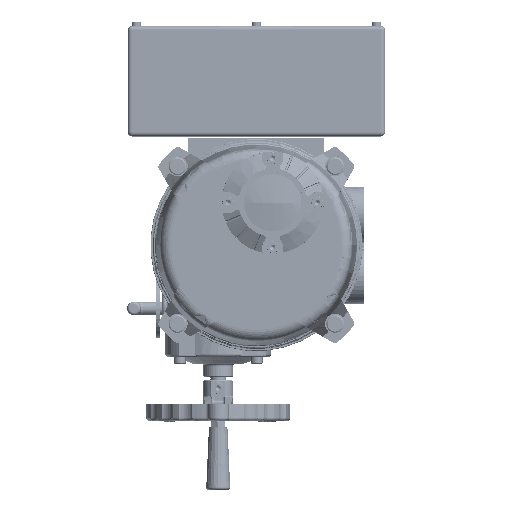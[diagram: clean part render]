
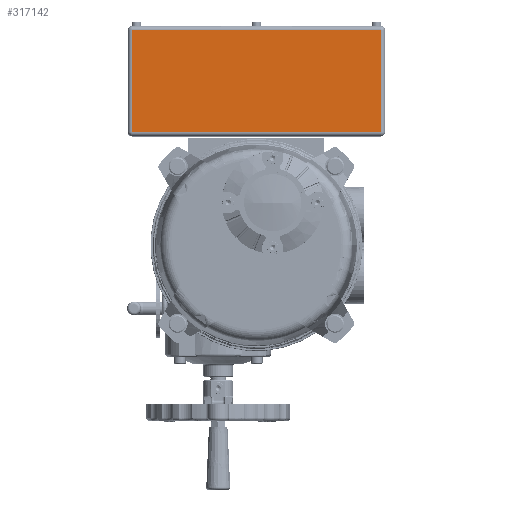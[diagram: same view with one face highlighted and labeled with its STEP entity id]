
A CAD part, top view. The second image highlights one B-rep face of the part: STEP entity #317142.
In plain terms, the highlighted planar face has unit normal (0, 0, 1).
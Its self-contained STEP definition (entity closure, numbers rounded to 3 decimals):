
#315689 = CYLINDRICAL_SURFACE('',#315690,3.);
#315690 = AXIS2_PLACEMENT_3D('',#315691,#315692,#315693);
#315691 = CARTESIAN_POINT('',(66.957,-40.676,116.5));
#315692 = DIRECTION('',(-1.,0.,0.));
#315693 = DIRECTION('',(-0.,-1.,0.));
#316919 = CYLINDRICAL_SURFACE('',#316920,3.);
#316920 = AXIS2_PLACEMENT_3D('',#316921,#316922,#316923);
#316921 = CARTESIAN_POINT('',(66.957,-115.676,116.5));
#316922 = DIRECTION('',(-1.,0.,0.));
#316923 = DIRECTION('',(-0.,-1.,0.));
#317142 = ADVANCED_FACE('',(#317143),#317157,.F.);
#317143 = FACE_BOUND('',#317144,.T.);
#317144 = EDGE_LOOP('',(#317145,#317175,#317203,#317226));
#317145 = ORIENTED_EDGE('',*,*,#317146,.T.);
#317146 = EDGE_CURVE('',#317147,#317149,#317151,.T.);
#317147 = VERTEX_POINT('',#317148);
#317148 = CARTESIAN_POINT('',(63.957,-40.676,119.5));
#317149 = VERTEX_POINT('',#317150);
#317150 = CARTESIAN_POINT('',(-119.043,-40.676,119.5));
#317151 = SURFACE_CURVE('',#317152,(#317156,#317168),.PCURVE_S1.);
#317152 = LINE('',#317153,#317154);
#317153 = CARTESIAN_POINT('',(66.957,-40.676,119.5));
#317154 = VECTOR('',#317155,1.);
#317155 = DIRECTION('',(-1.,0.,0.));
#317156 = PCURVE('',#317157,#317162);
#317157 = PLANE('',#317158);
#317158 = AXIS2_PLACEMENT_3D('',#317159,#317160,#317161);
#317159 = CARTESIAN_POINT('',(66.957,-118.676,119.5));
#317160 = DIRECTION('',(0.,0.,-1.));
#317161 = DIRECTION('',(0.,1.,0.));
#317162 = DEFINITIONAL_REPRESENTATION('',(#317163),#317167);
#317163 = LINE('',#317164,#317165);
#317164 = CARTESIAN_POINT('',(78.,0.));
#317165 = VECTOR('',#317166,1.);
#317166 = DIRECTION('',(0.,-1.));
#317167 = ( GEOMETRIC_REPRESENTATION_CONTEXT(2) 
PARAMETRIC_REPRESENTATION_CONTEXT() REPRESENTATION_CONTEXT('2D SPACE',''
  ) );
#317168 = PCURVE('',#315689,#317169);
#317169 = DEFINITIONAL_REPRESENTATION('',(#317170),#317174);
#317170 = LINE('',#317171,#317172);
#317171 = CARTESIAN_POINT('',(1.571,0.));
#317172 = VECTOR('',#317173,1.);
#317173 = DIRECTION('',(0.,1.));
#317174 = ( GEOMETRIC_REPRESENTATION_CONTEXT(2) 
PARAMETRIC_REPRESENTATION_CONTEXT() REPRESENTATION_CONTEXT('2D SPACE',''
  ) );
#317175 = ORIENTED_EDGE('',*,*,#317176,.T.);
#317176 = EDGE_CURVE('',#317149,#317177,#317179,.T.);
#317177 = VERTEX_POINT('',#317178);
#317178 = CARTESIAN_POINT('',(-119.043,-115.676,119.5));
#317179 = SURFACE_CURVE('',#317180,(#317184,#317191),.PCURVE_S1.);
#317180 = LINE('',#317181,#317182);
#317181 = CARTESIAN_POINT('',(-119.043,-118.676,119.5));
#317182 = VECTOR('',#317183,1.);
#317183 = DIRECTION('',(0.,-1.,0.));
#317184 = PCURVE('',#317157,#317185);
#317185 = DEFINITIONAL_REPRESENTATION('',(#317186),#317190);
#317186 = LINE('',#317187,#317188);
#317187 = CARTESIAN_POINT('',(0.,-186.));
#317188 = VECTOR('',#317189,1.);
#317189 = DIRECTION('',(-1.,0.));
#317190 = ( GEOMETRIC_REPRESENTATION_CONTEXT(2) 
PARAMETRIC_REPRESENTATION_CONTEXT() REPRESENTATION_CONTEXT('2D SPACE',''
  ) );
#317191 = PCURVE('',#317192,#317197);
#317192 = CYLINDRICAL_SURFACE('',#317193,3.);
#317193 = AXIS2_PLACEMENT_3D('',#317194,#317195,#317196);
#317194 = CARTESIAN_POINT('',(-119.043,-118.676,116.5));
#317195 = DIRECTION('',(0.,-1.,0.));
#317196 = DIRECTION('',(1.,0.,0.));
#317197 = DEFINITIONAL_REPRESENTATION('',(#317198),#317202);
#317198 = LINE('',#317199,#317200);
#317199 = CARTESIAN_POINT('',(1.571,0.));
#317200 = VECTOR('',#317201,1.);
#317201 = DIRECTION('',(0.,1.));
#317202 = ( GEOMETRIC_REPRESENTATION_CONTEXT(2) 
PARAMETRIC_REPRESENTATION_CONTEXT() REPRESENTATION_CONTEXT('2D SPACE',''
  ) );
#317203 = ORIENTED_EDGE('',*,*,#317204,.T.);
#317204 = EDGE_CURVE('',#317177,#317205,#317207,.T.);
#317205 = VERTEX_POINT('',#317206);
#317206 = CARTESIAN_POINT('',(63.957,-115.676,119.5));
#317207 = SURFACE_CURVE('',#317208,(#317212,#317219),.PCURVE_S1.);
#317208 = LINE('',#317209,#317210);
#317209 = CARTESIAN_POINT('',(66.957,-115.676,119.5));
#317210 = VECTOR('',#317211,1.);
#317211 = DIRECTION('',(1.,0.,0.));
#317212 = PCURVE('',#317157,#317213);
#317213 = DEFINITIONAL_REPRESENTATION('',(#317214),#317218);
#317214 = LINE('',#317215,#317216);
#317215 = CARTESIAN_POINT('',(3.,0.));
#317216 = VECTOR('',#317217,1.);
#317217 = DIRECTION('',(0.,1.));
#317218 = ( GEOMETRIC_REPRESENTATION_CONTEXT(2) 
PARAMETRIC_REPRESENTATION_CONTEXT() REPRESENTATION_CONTEXT('2D SPACE',''
  ) );
#317219 = PCURVE('',#316919,#317220);
#317220 = DEFINITIONAL_REPRESENTATION('',(#317221),#317225);
#317221 = LINE('',#317222,#317223);
#317222 = CARTESIAN_POINT('',(1.571,0.));
#317223 = VECTOR('',#317224,1.);
#317224 = DIRECTION('',(0.,-1.));
#317225 = ( GEOMETRIC_REPRESENTATION_CONTEXT(2) 
PARAMETRIC_REPRESENTATION_CONTEXT() REPRESENTATION_CONTEXT('2D SPACE',''
  ) );
#317226 = ORIENTED_EDGE('',*,*,#317227,.T.);
#317227 = EDGE_CURVE('',#317205,#317147,#317228,.T.);
#317228 = SURFACE_CURVE('',#317229,(#317233,#317240),.PCURVE_S1.);
#317229 = LINE('',#317230,#317231);
#317230 = CARTESIAN_POINT('',(63.957,-37.676,119.5));
#317231 = VECTOR('',#317232,1.);
#317232 = DIRECTION('',(0.,1.,0.));
#317233 = PCURVE('',#317157,#317234);
#317234 = DEFINITIONAL_REPRESENTATION('',(#317235),#317239);
#317235 = LINE('',#317236,#317237);
#317236 = CARTESIAN_POINT('',(81.,-3.));
#317237 = VECTOR('',#317238,1.);
#317238 = DIRECTION('',(1.,0.));
#317239 = ( GEOMETRIC_REPRESENTATION_CONTEXT(2) 
PARAMETRIC_REPRESENTATION_CONTEXT() REPRESENTATION_CONTEXT('2D SPACE',''
  ) );
#317240 = PCURVE('',#317241,#317246);
#317241 = CYLINDRICAL_SURFACE('',#317242,3.);
#317242 = AXIS2_PLACEMENT_3D('',#317243,#317244,#317245);
#317243 = CARTESIAN_POINT('',(63.957,-118.676,116.5));
#317244 = DIRECTION('',(0.,1.,0.));
#317245 = DIRECTION('',(-1.,0.,0.));
#317246 = DEFINITIONAL_REPRESENTATION('',(#317247),#317251);
#317247 = LINE('',#317248,#317249);
#317248 = CARTESIAN_POINT('',(1.571,81.));
#317249 = VECTOR('',#317250,1.);
#317250 = DIRECTION('',(0.,1.));
#317251 = ( GEOMETRIC_REPRESENTATION_CONTEXT(2) 
PARAMETRIC_REPRESENTATION_CONTEXT() REPRESENTATION_CONTEXT('2D SPACE',''
  ) );
